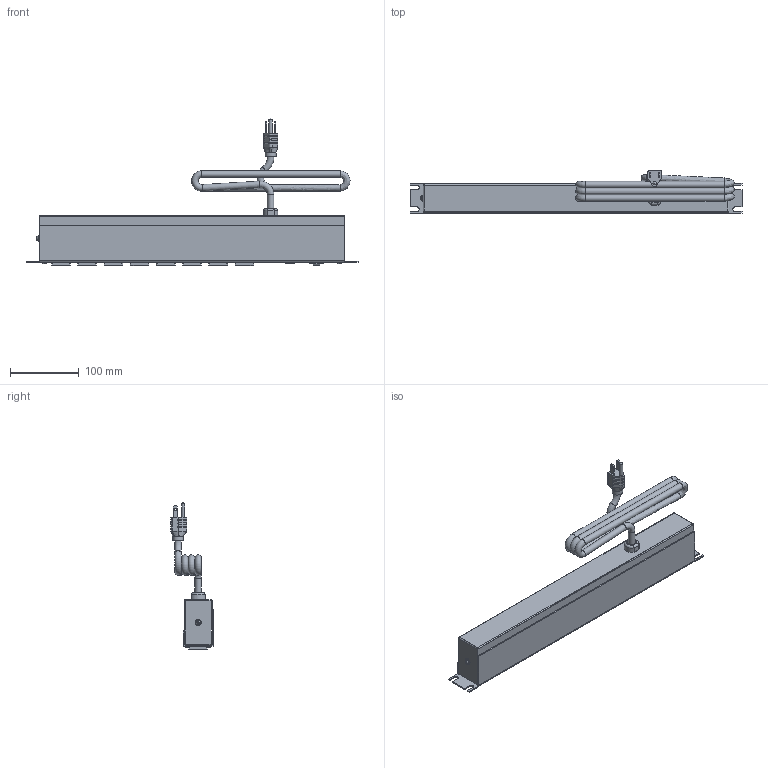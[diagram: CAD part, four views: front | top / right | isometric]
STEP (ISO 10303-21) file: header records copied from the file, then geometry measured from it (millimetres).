
FILE_DESCRIPTION((''),'2;1');
FILE_NAME('E:\Dutton\Manufacturing\drawings\Updated 2009\POWER BARS\1582 series\STEP''s\1582T8A1BK.stp','2010-01-06T11:49:07',('tfoster'),(''),'Autodesk Inventor 2010','Autodesk Inventor 2010','');
FILE_SCHEMA(('AUTOMOTIVE_DESIGN { 1 0 10303 214 1 1 1 1 }'));
Products named in the file (10): 1582T8A1BK; 1582H8 Front plate; 1582 Back Plate; #6 - 0.375 Type A screw; Reset Switch; Cored 2; toothwasher; round head 1-way 8-32 x 0.5 screw; Receptacle; Pilot light
Assembly tree (19 placements, depth 2):
  1582T8A1BK
    1582H8 Front plate
    1582 Back Plate
    #6 - 0.375 Type A screw  x4
    Reset Switch
    Cored 2
    toothwasher
    round head 1-way 8-32 x 0.5 screw
    Receptacle  x8
    Pilot light
Bounding box: 482.6 x 61.48 x 214.29 mm (x, y, z)
Volume: 373664.2 mm3; surface area: 308503 mm2
Topology: 19 solids, 19 shells, 1015 faces, 2916 edges, 1938 vertices
Faces by surface type: plane 673, cylinder 183, bspline 81, sphere 38, cone 25, torus 15
Full cylindrical faces by diameter (mm): 1.803 x3, 1.905 x2, 2.997 x4, 3 x2, 4.3 x1, 4.775 x1, 4.801 x1, 5.563 x4, 7.849 x1, 9.5 x5, 11 x1, 15.621 x1
Entity records: 22767 total; most frequent: CARTESIAN_POINT 7759, ORIENTED_EDGE 3252, DIRECTION 2709, EDGE_CURVE 1626, VERTEX_POINT 1141, VECTOR 1063, LINE 1063, AXIS2_PLACEMENT_3D 823
